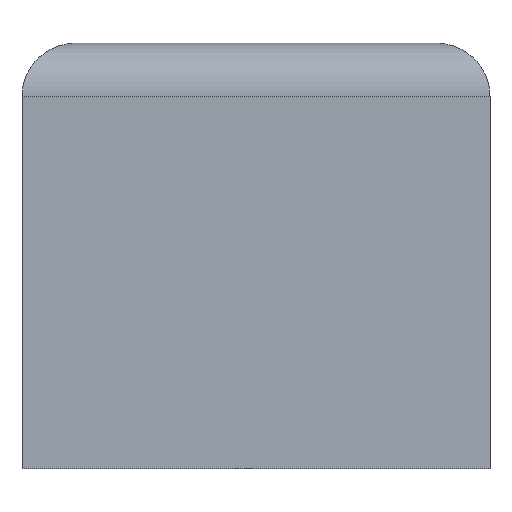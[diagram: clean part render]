
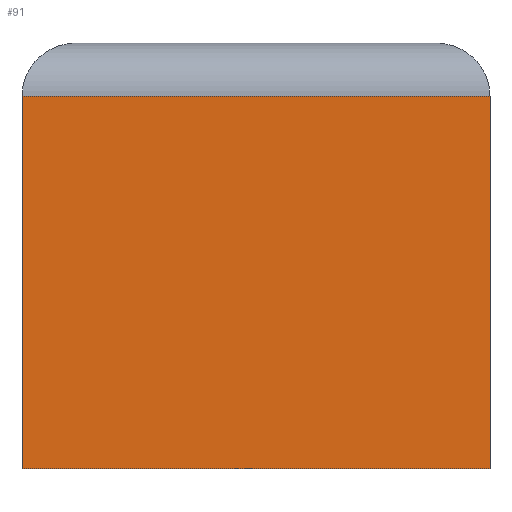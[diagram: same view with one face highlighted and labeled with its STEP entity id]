
A CAD part, front view. The second image highlights one B-rep face of the part: STEP entity #91.
In plain terms, the highlighted planar face has unit normal (0, -1, 0).
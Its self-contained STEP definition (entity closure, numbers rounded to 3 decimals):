
#21 = EDGE_CURVE('',#22,#24,#26,.T.);
#22 = VERTEX_POINT('',#23);
#23 = CARTESIAN_POINT('',(-24.,-21.,4.2));
#24 = VERTEX_POINT('',#25);
#25 = CARTESIAN_POINT('',(-24.,-21.,39.2));
#26 = LINE('',#27,#28);
#27 = CARTESIAN_POINT('',(-24.,-21.,4.2));
#28 = VECTOR('',#29,1.);
#29 = DIRECTION('',(0.,0.,1.));
#91 = ADVANCED_FACE('',(#92),#117,.F.);
#92 = FACE_BOUND('',#93,.F.);
#93 = EDGE_LOOP('',(#94,#104,#110,#111));
#94 = ORIENTED_EDGE('',*,*,#95,.F.);
#95 = EDGE_CURVE('',#96,#98,#100,.T.);
#96 = VERTEX_POINT('',#97);
#97 = CARTESIAN_POINT('',(20.,-21.,4.2));
#98 = VERTEX_POINT('',#99);
#99 = CARTESIAN_POINT('',(20.,-21.,39.2));
#100 = LINE('',#101,#102);
#101 = CARTESIAN_POINT('',(20.,-21.,4.2));
#102 = VECTOR('',#103,1.);
#103 = DIRECTION('',(0.,0.,1.));
#104 = ORIENTED_EDGE('',*,*,#105,.F.);
#105 = EDGE_CURVE('',#22,#96,#106,.T.);
#106 = LINE('',#107,#108);
#107 = CARTESIAN_POINT('',(-24.,-21.,4.2));
#108 = VECTOR('',#109,1.);
#109 = DIRECTION('',(1.,0.,-0.));
#110 = ORIENTED_EDGE('',*,*,#21,.T.);
#111 = ORIENTED_EDGE('',*,*,#112,.T.);
#112 = EDGE_CURVE('',#24,#98,#113,.T.);
#113 = LINE('',#114,#115);
#114 = CARTESIAN_POINT('',(-24.,-21.,39.2));
#115 = VECTOR('',#116,1.);
#116 = DIRECTION('',(1.,0.,-0.));
#117 = PLANE('',#118);
#118 = AXIS2_PLACEMENT_3D('',#119,#120,#121);
#119 = CARTESIAN_POINT('',(-24.,-21.,4.2));
#120 = DIRECTION('',(-0.,1.,0.));
#121 = DIRECTION('',(0.,0.,1.));
